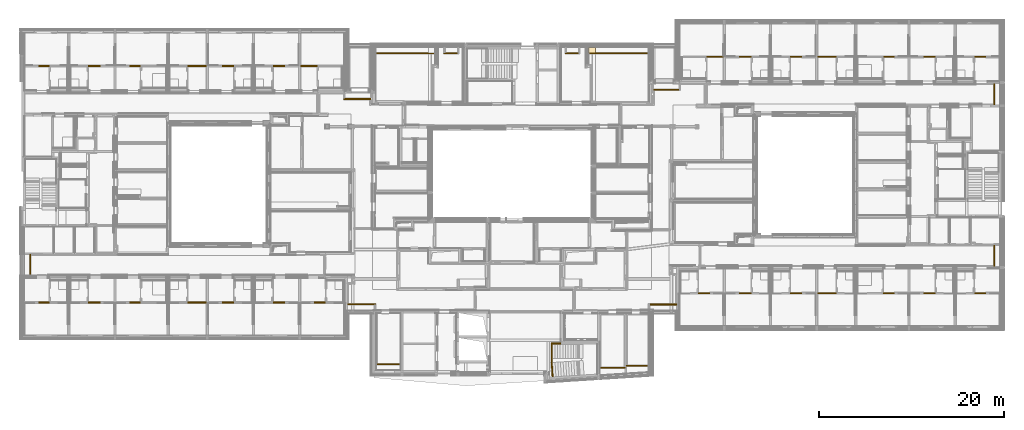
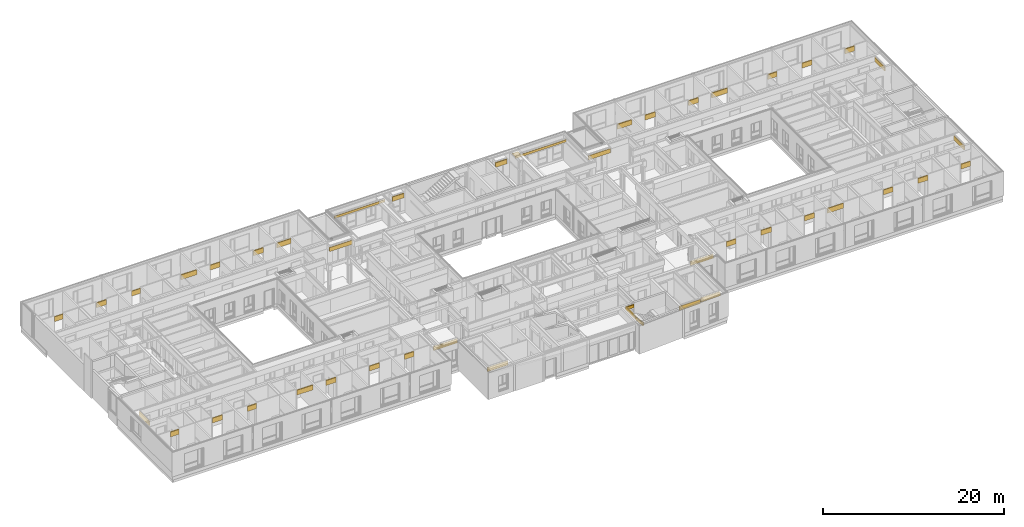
# One storey, part 191 of 207: 47 coverings.
"""IFC4 building model written with IfcOpenShell, lengths in metres."""

from ifc_helpers import new_model, entity, si_unit, converted_unit, derived_unit, frame, frame_2d, origin, place, context, subcontext, project, spatial, rectangle, extrude, faceted_brep, material, layer, layer_set, layer_usage, element, save


model = new_model("IFC4")

# Units and contexts
model_context = context("Model", 3, precision=1e-05, world=origin())
body_context = subcontext(model_context, "Body", "Model", "MODEL_VIEW")
ifc_project = project(units=[si_unit("LENGTHUNIT", "METRE"), si_unit("AREAUNIT", "SQUARE_METRE"), si_unit("VOLUMEUNIT", "CUBIC_METRE"), si_unit("MASSUNIT", "GRAM", prefix="KILO"), converted_unit("PLANEANGLEUNIT", "DEGREE", entity("IfcPlaneAngleMeasure", 0.0174532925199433), si_unit("PLANEANGLEUNIT", "RADIAN"), dimensions=[0, 0, 0, 0, 0, 0, 0]), derived_unit("THERMALTRANSMITTANCEUNIT", [(si_unit("POWERUNIT", "WATT"), 1), (si_unit("THERMODYNAMICTEMPERATUREUNIT", "KELVIN"), -1), (si_unit("LENGTHUNIT", "METRE"), -2)]), derived_unit("VOLUMETRICFLOWRATEUNIT", [(si_unit("LENGTHUNIT", "METRE"), 3), (converted_unit("TIMEUNIT", "hour", entity("IfcTimeMeasure", 3600.0), si_unit("TIMEUNIT", "SECOND"), dimensions=[0, 0, 1, 0, 0, 0, 0]), -1), (si_unit("LENGTHUNIT", "METRE"), -1)])], contexts=[model_context])

# Site, building, storey
site_placement = place(None, origin())
site = spatial("IfcSite", under=ifc_project, at=site_placement, Name="Psychiatrie Neubau Wunstorf", CompositionType="ELEMENT")
building_placement = place(site_placement, origin())
building = spatial("IfcBuilding", under=site, at=building_placement, Name="Neubau H2 Stationsgebäude", CompositionType="ELEMENT")
storey_placement = place(building_placement, frame((0.0, 0.0, -0.2)))
storey = spatial("IfcBuildingStorey", under=building, at=storey_placement, Name="H2 Ebene 0", CompositionType="ELEMENT", Elevation=-0.2)

# Coverings
covering_1_placement = place(storey_placement, frame((67.9, 1.13499969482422, 2.85)))
element("IfcCovering", 1, at=covering_1_placement, inside=storey, Name="a-sh Abschluss Abhangdecke", PredefinedType="CEILING", context=body_context, shape_type="Brep", body=[
    faceted_brep([(0.0, 0.125, 0.0), (2.93549999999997, 0.125, 0.0), (2.93549999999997, 0.125, 0.55), (0.0, 0.125, 0.55), (2.93549999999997, 0.0, 0.0), (2.93549999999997, 0.0, 0.55), (0.0, 0.0, 0.0), (0.0, 0.0, 0.55)], [[[0, 1, 2, 3]], [[1, 4, 5, 2]], [[4, 6, 7, 5]], [[6, 0, 3, 7]], [[7, 3, 2, 5]], [[0, 6, 4, 1]]], orient=[[False], [False], [False], [False], [False], [False]]),
])
covering_2_placement = place(storey_placement, frame((68.321, 24.3890036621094, 2.85)))
element("IfcCovering", 2, at=covering_2_placement, inside=storey, Name="a-sh Abschluss Abhangdecke", PredefinedType="CEILING", context=body_context, shape_type="Brep", body=[
    faceted_brep([(2.779, 0.0, 0.0), (0.0, 0.0, 0.0), (0.0, 0.0, 0.55), (2.779, 0.0, 0.55), (0.0, 0.125, 0.0), (0.0, 0.125, 0.55), (2.779, 0.125, 0.0), (2.779, 0.125, 0.55)], [[[0, 1, 2, 3]], [[1, 4, 5, 2]], [[4, 6, 7, 5]], [[6, 0, 3, 7]], [[7, 3, 2, 5]], [[0, 6, 4, 1]]], orient=[[False], [False], [False], [False], [False], [False]]),
])
covering_3_placement = place(storey_placement, frame((34.775, 23.39, 2.85)))
element("IfcCovering", 3, at=covering_3_placement, inside=storey, Name="a-sh Abschluss Abhangdecke", PredefinedType="CEILING", context=body_context, shape_type="Brep", body=[
    faceted_brep([(2.904, 0.0, 0.0), (0.0, 0.0, 0.0), (0.0, 0.0, 0.55), (2.904, 0.0, 0.55), (0.0, 0.125, 0.0), (0.0, 0.125, 0.55), (2.904, 0.125, 0.0), (2.904, 0.125, 0.55)], [[[0, 1, 2, 3]], [[1, 4, 5, 2]], [[4, 6, 7, 5]], [[6, 0, 3, 7]], [[7, 3, 2, 5]], [[0, 6, 4, 1]]], orient=[[False], [False], [False], [False], [False], [False]]),
])
covering_4_placement = place(storey_placement, frame((35.1645, 1.14999969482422, 2.85)))
element("IfcCovering", 4, at=covering_4_placement, inside=storey, Name="a-sh Abschluss Abhangdecke", PredefinedType="CEILING", context=body_context, shape_type="Brep", body=[
    faceted_brep([(0.0, 0.125, 0.0), (3.0605, 0.125, 0.0), (3.0605, 0.125, 0.55), (0.0, 0.125, 0.55), (3.0605, 0.0, 0.0), (3.0605, 0.0, 0.55), (0.0, 0.0, 0.0), (0.0, 0.0, 0.55)], [[[0, 1, 2, 3]], [[1, 4, 5, 2]], [[4, 6, 7, 5]], [[6, 0, 3, 7]], [[7, 3, 2, 5]], [[0, 6, 4, 1]]], orient=[[False], [False], [False], [False], [False], [False]]),
])
ifc_material_1 = material(Name="D1")
covering_5_placement = place(storey_placement, frame((105.165, 5.33250000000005, 2.85)))
element("IfcCovering", 5, at=covering_5_placement, inside=storey, material=ifc_material_1, Name="a-sh Abschluss Abhangdecke", PredefinedType="CEILING", context=body_context, shape_type="Brep", body=[
    faceted_brep([(0.0, 0.0, 0.0), (0.0, 2.29249999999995, 0.0), (0.0, 2.29249999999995, 0.55), (0.0, 0.0, 0.55), (0.125, 2.29249999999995, 0.0), (0.125, 2.29249999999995, 0.55), (0.125, 0.0, 0.0), (0.125, 0.0, 0.55)], [[[0, 1, 2, 3]], [[1, 4, 5, 2]], [[4, 6, 7, 5]], [[6, 0, 3, 7]], [[7, 3, 2, 5]], [[0, 6, 4, 1]]], orient=[[False], [False], [False], [False], [False], [False]]),
])
ifc_material_2 = material(Name="D1")
covering_6_placement = place(storey_placement, frame((105.175, 22.8359999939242, 2.85)))
element("IfcCovering", 6, at=covering_6_placement, inside=storey, material=ifc_material_2, Name="a-sh Abschluss Abhangdecke", PredefinedType="CEILING", context=body_context, shape_type="Brep", body=[
    faceted_brep([(0.0, 0.0, 0.0), (0.0, 2.28150000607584, 0.0), (0.0, 2.28150000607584, 0.55), (0.0, 0.0, 0.55), (0.125, 2.28150000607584, 0.0), (0.125, 2.28150000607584, 0.55), (0.125, 0.0, 0.0), (0.125, 0.0, 0.55)], [[[0, 1, 2, 3]], [[1, 4, 5, 2]], [[4, 6, 7, 5]], [[6, 0, 3, 7]], [[7, 3, 2, 5]], [[0, 6, 4, 1]]], orient=[[False], [False], [False], [False], [False], [False]]),
])
ifc_material_3 = material(Name="D1")
covering_7_placement = place(storey_placement, frame((0.77, 4.33074963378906, 2.85)))
element("IfcCovering", 7, at=covering_7_placement, inside=storey, material=ifc_material_3, Name="a-sh Abschluss Abhangdecke", PredefinedType="CEILING", context=body_context, shape_type="Brep", body=[
    faceted_brep([(0.125, 2.29425036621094, 0.0), (0.125, 0.0, 0.0), (0.125, 0.0, 0.55), (0.125, 2.29425036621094, 0.55), (0.0, 0.0, 0.0), (0.0, 0.0, 0.55), (0.0, 2.29425036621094, 0.0), (0.0, 2.29425036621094, 0.55)], [[[0, 1, 2, 3]], [[1, 4, 5, 2]], [[4, 6, 7, 5]], [[6, 0, 3, 7]], [[7, 3, 2, 5]], [[0, 6, 4, 1]]], orient=[[False], [False], [False], [False], [False], [False]]),
])
ifc_material_4 = material(Name="D1")
covering_8_placement = place(storey_placement, frame((57.2412710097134, -6.64576897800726, 3.15)))
element("IfcCovering", 8, at=covering_8_placement, inside=storey, material=ifc_material_4, Name="a-sh Abschluss Abhangdecke", PredefinedType="CEILING", context=body_context, shape_type="Brep", body=[
    faceted_brep([(0.0962708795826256, 0.0, 0.0), (0.0, 1.49911055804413, 0.0), (0.0, 1.49911055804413, 0.414), (0.0962708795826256, 0.0, 0.414), (0.125, 1.5031200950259, 0.0), (0.125, 1.5031200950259, 0.414), (0.221013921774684, 0.00801083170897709, 0.0), (0.221013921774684, 0.00801083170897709, 0.414)], [[[0, 1, 2, 3]], [[1, 4, 5, 2]], [[4, 6, 7, 5]], [[6, 0, 3, 7]], [[7, 3, 2, 5]], [[0, 6, 4, 1]]], orient=[[False], [False], [False], [False], [False], [False]]),
])
covering_9_placement = place(storey_placement, frame((57.2412710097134, -5.14665841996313, 3.15)))
element("IfcCovering", 9, at=covering_9_placement, inside=storey, Name="a-sh Abschluss Abhangdecke", PredefinedType="CEILING", context=body_context, shape_type="Brep", body=[
    faceted_brep([(0.0, 0.0, 0.0), (0.0, 2.18316710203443, 0.0), (0.0, 2.18316710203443, 0.414), (0.0, 0.0, 0.414), (0.125, 2.18316710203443, 0.0), (0.125, 2.18316710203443, 0.414), (0.125, 0.00400953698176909, 0.0), (0.125, 0.00400953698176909, 0.414)], [[[0, 1, 2, 3]], [[1, 4, 5, 2]], [[4, 6, 7, 5]], [[6, 0, 3, 7]], [[7, 3, 2, 5]], [[0, 6, 4, 1]]], orient=[[False], [False], [False], [False], [False], [False]]),
])
covering_10_placement = place(storey_placement, frame((57.3662710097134, -3.0884913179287, 3.15)))
element("IfcCovering", 10, at=covering_10_placement, inside=storey, Name="a-sh Abschluss Abhangdecke", PredefinedType="CEILING", context=body_context, shape_type="Brep", body=[
    faceted_brep([(0.0, 0.125, 0.0), (0.911728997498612, 0.125, 0.0), (0.911728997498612, 0.125, 0.414), (0.0, 0.125, 0.414), (0.911728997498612, 0.0, 0.0), (0.911728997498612, 0.0, 0.414), (0.0, 0.0, 0.0), (0.0, 0.0, 0.414)], [[[0, 1, 2, 3]], [[1, 4, 5, 2]], [[4, 6, 7, 5]], [[6, 0, 3, 7]], [[7, 3, 2, 5]], [[0, 6, 4, 1]]], orient=[[False], [False], [False], [False], [False], [False]]),
])
ifc_material_5 = material(Name="D1")
covering_11_placement = place(storey_placement, frame((103.1, 2.36050000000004, 2.8)))
element("IfcCovering", 11, at=covering_11_placement, inside=storey, material=ifc_material_5, Name="a-sh Abschluss Abhangdecke", PredefinedType="CEILING", context=body_context, shape_type="Brep", body=[
    faceted_brep([(0.0, 0.125, 0.0), (1.214, 0.125, 0.0), (1.214, 0.125, 0.65), (0.0, 0.125, 0.65), (1.214, 0.0, 0.0), (1.214, 0.0, 0.65), (0.0, 0.0, 0.0), (0.0, 0.0, 0.65)], [[[0, 1, 2, 3]], [[1, 4, 5, 2]], [[4, 6, 7, 5]], [[6, 0, 3, 7]], [[7, 3, 2, 5]], [[0, 6, 4, 1]]], orient=[[False], [False], [False], [False], [False], [False]]),
])
ifc_material_6 = material(Name="D1")
covering_12_placement = place(storey_placement, frame((97.6, 2.36050000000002, 2.8)))
element("IfcCovering", 12, at=covering_12_placement, inside=storey, material=ifc_material_6, Name="a-sh Abschluss Abhangdecke", PredefinedType="CEILING", context=body_context, shape_type="Brep", body=[
    faceted_brep([(0.0, 0.125, 0.0), (1.25, 0.125, 0.0), (1.25, 0.125, 0.65), (0.0, 0.125, 0.65), (1.25, 0.0, 0.0), (1.25, 0.0, 0.65), (0.0, 0.0, 0.0), (0.0, 0.0, 0.65)], [[[0, 1, 2, 3]], [[1, 4, 5, 2]], [[4, 6, 7, 5]], [[6, 0, 3, 7]], [[7, 3, 2, 5]], [[0, 6, 4, 1]]], orient=[[False], [False], [False], [False], [False], [False]]),
])
covering_13_placement = place(storey_placement, frame((93.2250000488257, 2.36050000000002, 2.8)))
element("IfcCovering", 13, at=covering_13_placement, inside=storey, Name="a-sh Abschluss Abhangdecke", PredefinedType="CEILING", context=body_context, shape_type="Brep", body=[
    faceted_brep([(0.0, 0.125, 0.0), (1.17499995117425, 0.125, 0.0), (1.17499995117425, 0.125, 0.65), (0.0, 0.125, 0.65), (1.17499995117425, 0.0, 0.0), (1.17499995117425, 0.0, 0.65), (0.0, 0.0, 0.0), (0.0, 0.0, 0.65)], [[[0, 1, 2, 3]], [[1, 4, 5, 2]], [[4, 6, 7, 5]], [[6, 0, 3, 7]], [[7, 3, 2, 5]], [[0, 6, 4, 1]]], orient=[[False], [False], [False], [False], [False], [False]]),
])
covering_14_placement = place(storey_placement, frame((86.1000000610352, 2.36050000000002, 2.8)))
element("IfcCovering", 14, at=covering_14_placement, inside=storey, Name="a-sh Abschluss Abhangdecke", PredefinedType="CEILING", context=body_context, shape_type="Brep", body=[
    faceted_brep([(0.0, 0.125, 0.0), (1.99999998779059, 0.125, 0.0), (1.99999998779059, 0.125, 0.65), (0.0, 0.125, 0.65), (1.99999998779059, 0.0, 0.0), (1.99999998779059, 0.0, 0.65), (0.0, 0.0, 0.0), (0.0, 0.0, 0.65)], [[[0, 1, 2, 3]], [[1, 4, 5, 2]], [[4, 6, 7, 5]], [[6, 0, 3, 7]], [[7, 3, 2, 5]], [[0, 6, 4, 1]]], orient=[[False], [False], [False], [False], [False], [False]]),
])
covering_15_placement = place(storey_placement, frame((83.1499999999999, 2.36050000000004, 2.8)))
element("IfcCovering", 15, at=covering_15_placement, inside=storey, Name="a-sh Abschluss Abhangdecke", PredefinedType="CEILING", context=body_context, shape_type="Brep", body=[
    faceted_brep([(0.0, 0.125, 0.0), (1.25000004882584, 0.125, 0.0), (1.25000004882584, 0.125, 0.65), (0.0, 0.125, 0.65), (1.25000004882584, 0.0, 0.0), (1.25000004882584, 0.0, 0.65), (0.0, 0.0, 0.0), (0.0, 0.0, 0.65)], [[[0, 1, 2, 3]], [[1, 4, 5, 2]], [[4, 6, 7, 5]], [[6, 0, 3, 7]], [[7, 3, 2, 5]], [[0, 6, 4, 1]]], orient=[[False], [False], [False], [False], [False], [False]]),
])
covering_16_placement = place(storey_placement, frame((77.6, 2.36050000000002, 2.8)))
element("IfcCovering", 16, at=covering_16_placement, inside=storey, Name="a-sh Abschluss Abhangdecke", PredefinedType="CEILING", context=body_context, shape_type="Brep", body=[
    faceted_brep([(0.0, 0.125, 0.0), (1.3, 0.125, 0.0), (1.3, 0.125, 0.65), (0.0, 0.125, 0.65), (1.3, 0.0, 0.0), (1.3, 0.0, 0.65), (0.0, 0.0, 0.0), (0.0, 0.0, 0.65)], [[[0, 1, 2, 3]], [[1, 4, 5, 2]], [[4, 6, 7, 5]], [[6, 0, 3, 7]], [[7, 3, 2, 5]], [[0, 6, 4, 1]]], orient=[[False], [False], [False], [False], [False], [False]]),
])
covering_17_placement = place(storey_placement, frame((73.1875, 2.36050000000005, 2.8)))
element("IfcCovering", 17, at=covering_17_placement, inside=storey, Name="a-sh Abschluss Abhangdecke", PredefinedType="CEILING", context=body_context, shape_type="Brep", body=[
    faceted_brep([(0.0, 0.125, 0.0), (1.21249999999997, 0.125, 0.0), (1.21249999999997, 0.125, 0.65), (0.0, 0.125, 0.65), (1.21249999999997, 0.0, 0.0), (1.21249999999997, 0.0, 0.65), (0.0, 0.0, 0.0), (0.0, 0.0, 0.65)], [[[0, 1, 2, 3]], [[1, 4, 5, 2]], [[4, 6, 7, 5]], [[6, 0, 3, 7]], [[7, 3, 2, 5]], [[0, 6, 4, 1]]], orient=[[False], [False], [False], [False], [False], [False]]),
])
covering_18_placement = place(storey_placement, frame((31.6, 1.35874963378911, 2.8)))
element("IfcCovering", 18, at=covering_18_placement, inside=storey, Name="a-sh Abschluss Abhangdecke", PredefinedType="CEILING", context=body_context, shape_type="Brep", body=[
    faceted_brep([(0.0, 0.125, 0.0), (1.1925, 0.125, 0.0), (1.1925, 0.125, 0.65), (0.0, 0.125, 0.65), (1.1925, 0.0, 0.0), (1.1925, 0.0, 0.65), (0.0, 0.0, 0.0), (0.0, 0.0, 0.65)], [[[0, 1, 2, 3]], [[1, 4, 5, 2]], [[4, 6, 7, 5]], [[6, 0, 3, 7]], [[7, 3, 2, 5]], [[0, 6, 4, 1]]], orient=[[False], [False], [False], [False], [False], [False]]),
])
covering_19_placement = place(storey_placement, frame((27.125, 1.35874963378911, 2.8)))
element("IfcCovering", 19, at=covering_19_placement, inside=storey, Name="a-sh Abschluss Abhangdecke", PredefinedType="CEILING", context=body_context, shape_type="Brep", body=[
    faceted_brep([(0.0, 0.125, 0.0), (1.27499999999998, 0.125, 0.0), (1.27499999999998, 0.125, 0.65), (0.0, 0.125, 0.65), (1.27499999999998, 0.0, 0.0), (1.27499999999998, 0.0, 0.65), (0.0, 0.0, 0.0), (0.0, 0.0, 0.65)], [[[0, 1, 2, 3]], [[1, 4, 5, 2]], [[4, 6, 7, 5]], [[6, 0, 3, 7]], [[7, 3, 2, 5]], [[0, 6, 4, 1]]], orient=[[False], [False], [False], [False], [False], [False]]),
])
covering_20_placement = place(storey_placement, frame((21.6, 1.35874963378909, 2.8)))
element("IfcCovering", 20, at=covering_20_placement, inside=storey, Name="a-sh Abschluss Abhangdecke", PredefinedType="CEILING", context=body_context, shape_type="Brep", body=[
    faceted_brep([(0.0, 0.125, 0.0), (1.275, 0.125, 0.0), (1.275, 0.125, 0.65), (0.0, 0.125, 0.65), (1.275, 0.0, 0.0), (1.275, 0.0, 0.65), (0.0, 0.0, 0.0), (0.0, 0.0, 0.65)], [[[0, 1, 2, 3]], [[1, 4, 5, 2]], [[4, 6, 7, 5]], [[6, 0, 3, 7]], [[7, 3, 2, 5]], [[0, 6, 4, 1]]], orient=[[False], [False], [False], [False], [False], [False]]),
])
covering_21_placement = place(storey_placement, frame((17.875, 1.35874963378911, 2.8)))
element("IfcCovering", 21, at=covering_21_placement, inside=storey, Name="a-sh Abschluss Abhangdecke", PredefinedType="CEILING", context=body_context, shape_type="Brep", body=[
    faceted_brep([(0.0, 0.125, 0.0), (2.025, 0.125, 0.0), (2.025, 0.125, 0.65), (0.0, 0.125, 0.65), (2.025, 0.0, 0.0), (2.025, 0.0, 0.65), (0.0, 0.0, 0.0), (0.0, 0.0, 0.65)], [[[0, 1, 2, 3]], [[1, 4, 5, 2]], [[4, 6, 7, 5]], [[6, 0, 3, 7]], [[7, 3, 2, 5]], [[0, 6, 4, 1]]], orient=[[False], [False], [False], [False], [False], [False]]),
])
covering_22_placement = place(storey_placement, frame((11.6, 1.35874963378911, 2.8)))
element("IfcCovering", 22, at=covering_22_placement, inside=storey, Name="a-sh Abschluss Abhangdecke", PredefinedType="CEILING", context=body_context, shape_type="Brep", body=[
    faceted_brep([(0.0, 0.125, 0.0), (1.14999999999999, 0.125, 0.0), (1.14999999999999, 0.125, 0.65), (0.0, 0.125, 0.65), (1.14999999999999, 0.0, 0.0), (1.14999999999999, 0.0, 0.65), (0.0, 0.0, 0.0), (0.0, 0.0, 0.65)], [[[0, 1, 2, 3]], [[1, 4, 5, 2]], [[4, 6, 7, 5]], [[6, 0, 3, 7]], [[7, 3, 2, 5]], [[0, 6, 4, 1]]], orient=[[False], [False], [False], [False], [False], [False]]),
])
covering_23_placement = place(storey_placement, frame((7.125, 1.35874963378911, 2.8)))
element("IfcCovering", 23, at=covering_23_placement, inside=storey, Name="a-sh Abschluss Abhangdecke", PredefinedType="CEILING", context=body_context, shape_type="Brep", body=[
    faceted_brep([(0.0, 0.125, 0.0), (1.27499999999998, 0.125, 0.0), (1.27499999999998, 0.125, 0.65), (0.0, 0.125, 0.65), (1.27499999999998, 0.0, 0.0), (1.27499999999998, 0.0, 0.65), (0.0, 0.0, 0.0), (0.0, 0.0, 0.65)], [[[0, 1, 2, 3]], [[1, 4, 5, 2]], [[4, 6, 7, 5]], [[6, 0, 3, 7]], [[7, 3, 2, 5]], [[0, 6, 4, 1]]], orient=[[False], [False], [False], [False], [False], [False]]),
])
covering_24_placement = place(storey_placement, frame((1.744, 1.3587496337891, 2.8)))
element("IfcCovering", 24, at=covering_24_placement, inside=storey, Name="a-sh Abschluss Abhangdecke", PredefinedType="CEILING", context=body_context, shape_type="Brep", body=[
    faceted_brep([(0.0, 0.125, 0.0), (1.131, 0.125, 0.0), (1.131, 0.125, 0.65), (0.0, 0.125, 0.65), (1.131, 0.0, 0.0), (1.131, 0.0, 0.65), (0.0, 0.0, 0.0), (0.0, 0.0, 0.65)], [[[0, 1, 2, 3]], [[1, 4, 5, 2]], [[4, 6, 7, 5]], [[6, 0, 3, 7]], [[7, 3, 2, 5]], [[0, 6, 4, 1]]], orient=[[False], [False], [False], [False], [False], [False]]),
])
covering_25_placement = place(storey_placement, frame((1.744, 26.9645, 2.8)))
element("IfcCovering", 25, at=covering_25_placement, inside=storey, Name="a-sh Abschluss Abhangdecke", PredefinedType="CEILING", context=body_context, shape_type="Brep", body=[
    faceted_brep([(1.13100000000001, 0.0, 0.0), (0.0, 0.0, 0.0), (0.0, 0.0, 0.65), (1.13100000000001, 0.0, 0.65), (0.0, 0.125, 0.0), (0.0, 0.125, 0.65), (1.13100000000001, 0.125, 0.0), (1.13100000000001, 0.125, 0.65)], [[[0, 1, 2, 3]], [[1, 4, 5, 2]], [[4, 6, 7, 5]], [[6, 0, 3, 7]], [[7, 3, 2, 5]], [[0, 6, 4, 1]]], orient=[[False], [False], [False], [False], [False], [False]]),
])
covering_26_placement = place(storey_placement, frame((7.12500000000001, 26.9645, 2.8)))
element("IfcCovering", 26, at=covering_26_placement, inside=storey, Name="a-sh Abschluss Abhangdecke", PredefinedType="CEILING", context=body_context, shape_type="Brep", body=[
    faceted_brep([(1.27499999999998, 0.0, 0.0), (0.0, 0.0, 0.0), (0.0, 0.0, 0.65), (1.27499999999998, 0.0, 0.65), (0.0, 0.125, 0.0), (0.0, 0.125, 0.65), (1.27499999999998, 0.125, 0.0), (1.27499999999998, 0.125, 0.65)], [[[0, 1, 2, 3]], [[1, 4, 5, 2]], [[4, 6, 7, 5]], [[6, 0, 3, 7]], [[7, 3, 2, 5]], [[0, 6, 4, 1]]], orient=[[False], [False], [False], [False], [False], [False]]),
])
covering_27_placement = place(storey_placement, frame((11.6, 26.9645, 2.8)))
element("IfcCovering", 27, at=covering_27_placement, inside=storey, Name="a-sh Abschluss Abhangdecke", PredefinedType="CEILING", context=body_context, shape_type="Brep", body=[
    faceted_brep([(1.14999999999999, 0.0, 0.0), (0.0, 0.0, 0.0), (0.0, 0.0, 0.65), (1.14999999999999, 0.0, 0.65), (0.0, 0.125, 0.0), (0.0, 0.125, 0.65), (1.14999999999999, 0.125, 0.0), (1.14999999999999, 0.125, 0.65)], [[[0, 1, 2, 3]], [[1, 4, 5, 2]], [[4, 6, 7, 5]], [[6, 0, 3, 7]], [[7, 3, 2, 5]], [[0, 6, 4, 1]]], orient=[[False], [False], [False], [False], [False], [False]]),
])
covering_28_placement = place(storey_placement, frame((17.875, 26.9645, 2.8)))
element("IfcCovering", 28, at=covering_28_placement, inside=storey, Name="a-sh Abschluss Abhangdecke", PredefinedType="CEILING", context=body_context, shape_type="Brep", body=[
    faceted_brep([(2.025, 0.0, 0.0), (0.0, 0.0, 0.0), (0.0, 0.0, 0.65), (2.025, 0.0, 0.65), (0.0, 0.125, 0.0), (0.0, 0.125, 0.65), (2.025, 0.125, 0.0), (2.025, 0.125, 0.65)], [[[0, 1, 2, 3]], [[1, 4, 5, 2]], [[4, 6, 7, 5]], [[6, 0, 3, 7]], [[7, 3, 2, 5]], [[0, 6, 4, 1]]], orient=[[False], [False], [False], [False], [False], [False]]),
])
covering_29_placement = place(storey_placement, frame((21.6, 26.9645, 2.8)))
element("IfcCovering", 29, at=covering_29_placement, inside=storey, Name="a-sh Abschluss Abhangdecke", PredefinedType="CEILING", context=body_context, shape_type="Brep", body=[
    faceted_brep([(1.275, 0.0, 0.0), (0.0, 0.0, 0.0), (0.0, 0.0, 0.65), (1.275, 0.0, 0.65), (0.0, 0.125, 0.0), (0.0, 0.125, 0.65), (1.275, 0.125, 0.0), (1.275, 0.125, 0.65)], [[[0, 1, 2, 3]], [[1, 4, 5, 2]], [[4, 6, 7, 5]], [[6, 0, 3, 7]], [[7, 3, 2, 5]], [[0, 6, 4, 1]]], orient=[[False], [False], [False], [False], [False], [False]]),
])
covering_30_placement = place(storey_placement, frame((27.125, 26.9645, 2.8)))
element("IfcCovering", 30, at=covering_30_placement, inside=storey, Name="a-sh Abschluss Abhangdecke", PredefinedType="CEILING", context=body_context, shape_type="Brep", body=[
    faceted_brep([(1.27499999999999, 0.0, 0.0), (0.0, 0.0, 0.0), (0.0, 0.0, 0.65), (1.27499999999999, 0.0, 0.65), (0.0, 0.125, 0.0), (0.0, 0.125, 0.65), (1.27499999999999, 0.125, 0.0), (1.27499999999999, 0.125, 0.65)], [[[0, 1, 2, 3]], [[1, 4, 5, 2]], [[4, 6, 7, 5]], [[6, 0, 3, 7]], [[7, 3, 2, 5]], [[0, 6, 4, 1]]], orient=[[False], [False], [False], [False], [False], [False]]),
])
covering_31_placement = place(storey_placement, frame((30.1, 26.9645, 2.8)))
element("IfcCovering", 31, at=covering_31_placement, inside=storey, Name="a-sh Abschluss Abhangdecke", PredefinedType="CEILING", context=body_context, shape_type="Brep", body=[
    faceted_brep([(1.79800000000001, 0.0, 0.0), (0.0, 0.0, 0.0), (0.0, 0.0, 0.65), (1.79800000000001, 0.0, 0.65), (0.0, 0.125, 0.0), (0.0, 0.125, 0.65), (1.79800000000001, 0.125, 0.0), (1.79800000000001, 0.125, 0.65)], [[[0, 1, 2, 3]], [[1, 4, 5, 2]], [[4, 6, 7, 5]], [[6, 0, 3, 7]], [[7, 3, 2, 5]], [[0, 6, 4, 1]]], orient=[[False], [False], [False], [False], [False], [False]]),
])
covering_32_placement = place(storey_placement, frame((74.1, 27.9575, 2.8)))
element("IfcCovering", 32, at=covering_32_placement, inside=storey, Name="a-sh Abschluss Abhangdecke", PredefinedType="CEILING", context=body_context, shape_type="Brep", body=[
    faceted_brep([(1.8, 0.0, 0.0), (0.0, 0.0, 0.0), (0.0, 0.0, 0.65), (1.8, 0.0, 0.65), (0.0, 0.125, 0.0), (0.0, 0.125, 0.65), (1.8, 0.125, 0.0), (1.8, 0.125, 0.65)], [[[0, 1, 2, 3]], [[1, 4, 5, 2]], [[4, 6, 7, 5]], [[6, 0, 3, 7]], [[7, 3, 2, 5]], [[0, 6, 4, 1]]], orient=[[False], [False], [False], [False], [False], [False]]),
])
covering_33_placement = place(storey_placement, frame((77.6, 27.9645, 2.8)))
element("IfcCovering", 33, at=covering_33_placement, inside=storey, Name="a-sh Abschluss Abhangdecke", PredefinedType="CEILING", context=body_context, shape_type="Brep", body=[
    faceted_brep([(1.3, 0.0, 0.0), (0.0, 0.0, 0.0), (0.0, 0.0, 0.65), (1.3, 0.0, 0.65), (0.0, 0.125, 0.0), (0.0, 0.125, 0.65), (1.3, 0.125, 0.0), (1.3, 0.125, 0.65)], [[[0, 1, 2, 3]], [[1, 4, 5, 2]], [[4, 6, 7, 5]], [[6, 0, 3, 7]], [[7, 3, 2, 5]], [[0, 6, 4, 1]]], orient=[[False], [False], [False], [False], [False], [False]]),
])
covering_34_placement = place(storey_placement, frame((83.15, 27.9645, 2.8)))
element("IfcCovering", 34, at=covering_34_placement, inside=storey, Name="a-sh Abschluss Abhangdecke", PredefinedType="CEILING", context=body_context, shape_type="Brep", body=[
    faceted_brep([(1.24999999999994, 0.0, 0.0), (0.0, 0.0, 0.0), (0.0, 0.0, 0.65), (1.24999999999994, 0.0, 0.65), (0.0, 0.125, 0.0), (0.0, 0.125, 0.65), (1.24999999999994, 0.125, 0.0), (1.24999999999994, 0.125, 0.65)], [[[0, 1, 2, 3]], [[1, 4, 5, 2]], [[4, 6, 7, 5]], [[6, 0, 3, 7]], [[7, 3, 2, 5]], [[0, 6, 4, 1]]], orient=[[False], [False], [False], [False], [False], [False]]),
])
covering_35_placement = place(storey_placement, frame((86.1, 27.9645, 2.8)))
element("IfcCovering", 35, at=covering_35_placement, inside=storey, Name="a-sh Abschluss Abhangdecke", PredefinedType="CEILING", context=body_context, shape_type="Brep", body=[
    faceted_brep([(2.025, 0.0, 0.0), (0.0, 0.0, 0.0), (0.0, 0.0, 0.65), (2.025, 0.0, 0.65), (0.0, 0.125, 0.0), (0.0, 0.125, 0.65), (2.025, 0.125, 0.0), (2.025, 0.125, 0.65)], [[[0, 1, 2, 3]], [[1, 4, 5, 2]], [[4, 6, 7, 5]], [[6, 0, 3, 7]], [[7, 3, 2, 5]], [[0, 6, 4, 1]]], orient=[[False], [False], [False], [False], [False], [False]]),
])
covering_36_placement = place(storey_placement, frame((93.25, 27.9645, 2.8)))
element("IfcCovering", 36, at=covering_36_placement, inside=storey, Name="a-sh Abschluss Abhangdecke", PredefinedType="CEILING", context=body_context, shape_type="Brep", body=[
    faceted_brep([(1.14999999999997, 0.0, 0.0), (0.0, 0.0, 0.0), (0.0, 0.0, 0.65), (1.14999999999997, 0.0, 0.65), (0.0, 0.125, 0.0), (0.0, 0.125, 0.65), (1.14999999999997, 0.125, 0.0), (1.14999999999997, 0.125, 0.65)], [[[0, 1, 2, 3]], [[1, 4, 5, 2]], [[4, 6, 7, 5]], [[6, 0, 3, 7]], [[7, 3, 2, 5]], [[0, 6, 4, 1]]], orient=[[False], [False], [False], [False], [False], [False]]),
])
covering_37_placement = place(storey_placement, frame((97.6, 27.9645, 2.8)))
element("IfcCovering", 37, at=covering_37_placement, inside=storey, Name="a-sh Abschluss Abhangdecke", PredefinedType="CEILING", context=body_context, shape_type="Brep", body=[
    faceted_brep([(1.25000000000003, 0.0, 0.0), (0.0, 0.0, 0.0), (0.0, 0.0, 0.65), (1.25000000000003, 0.0, 0.65), (0.0, 0.125, 0.0), (0.0, 0.125, 0.65), (1.25000000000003, 0.125, 0.0), (1.25000000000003, 0.125, 0.65)], [[[0, 1, 2, 3]], [[1, 4, 5, 2]], [[4, 6, 7, 5]], [[6, 0, 3, 7]], [[7, 3, 2, 5]], [[0, 6, 4, 1]]], orient=[[False], [False], [False], [False], [False], [False]]),
])
covering_38_placement = place(storey_placement, frame((103.1, 27.9645, 2.8)))
element("IfcCovering", 38, at=covering_38_placement, inside=storey, Name="a-sh Abschluss Abhangdecke", PredefinedType="CEILING", context=body_context, shape_type="Brep", body=[
    faceted_brep([(1.214, 0.0, 0.0), (0.0, 0.0, 0.0), (0.0, 0.0, 0.65), (1.214, 0.0, 0.65), (0.0, 0.125, 0.0), (0.0, 0.125, 0.65), (1.214, 0.125, 0.0), (1.214, 0.125, 0.65)], [[[0, 1, 2, 3]], [[1, 4, 5, 2]], [[4, 6, 7, 5]], [[6, 0, 3, 7]], [[7, 3, 2, 5]], [[0, 6, 4, 1]]], orient=[[False], [False], [False], [False], [False], [False]]),
])
covering_39_placement = place(storey_placement, frame((65.4, -5.514000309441, 2.85)))
element("IfcCovering", 39, at=covering_39_placement, inside=storey, Name="a-sh Abschluss Abhangdecke", PredefinedType="CEILING", context=body_context, shape_type="Brep", body=[
    faceted_brep([(0.0, 0.125, 0.0), (2.45250000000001, 0.125, 0.0), (2.45250000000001, 0.125, 0.55), (0.0, 0.125, 0.55), (2.45250000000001, 0.0, 0.0), (2.45250000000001, 0.0, 0.55), (0.0, 0.0, 0.0), (0.0, 0.0, 0.55)], [[[0, 1, 2, 3]], [[1, 4, 5, 2]], [[4, 6, 7, 5]], [[6, 0, 3, 7]], [[7, 3, 2, 5]], [[0, 6, 4, 1]]], orient=[[False], [False], [False], [False], [False], [False]]),
])
ifc_material_7 = material(Name="D1")
covering_40_placement = place(storey_placement, frame((62.5297936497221, -5.70724550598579, 2.85)))
element("IfcCovering", 40, at=covering_40_placement, inside=storey, material=ifc_material_7, Name="a-sh Abschluss Abhangdecke", PredefinedType="CEILING", context=body_context, shape_type="Brep", body=[
    faceted_brep([(0.0, 0.125, 0.0), (2.72020635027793, 0.125, 0.0), (2.72020635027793, 0.125, 0.55), (0.0, 0.125, 0.55), (2.72020635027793, 0.0, 0.0), (2.72020635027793, 0.0, 0.55), (0.0, 0.0, 0.0), (0.0, 0.0, 0.55)], [[[0, 1, 2, 3]], [[1, 4, 5, 2]], [[4, 6, 7, 5]], [[6, 0, 3, 7]], [[7, 3, 2, 5]], [[0, 6, 4, 1]]], orient=[[False], [False], [False], [False], [False], [False]]),
])
ifc_material_8 = material(Name="D1")
covering_41_placement = place(storey_placement, frame((38.304, -5.345000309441, 2.85)))
element("IfcCovering", 41, at=covering_41_placement, inside=storey, material=ifc_material_8, Name="a-sh Abschluss Abhangdecke", PredefinedType="CEILING", context=body_context, shape_type="Brep", body=[
    faceted_brep([(0.0, 0.125, 0.0), (2.62099999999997, 0.125, 0.0), (2.62099999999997, 0.125, 0.55), (0.0, 0.125, 0.55), (2.62099999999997, 0.0, 0.0), (2.62099999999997, 0.0, 0.55), (0.0, 0.0, 0.0), (0.0, 0.0, 0.55)], [[[0, 1, 2, 3]], [[1, 4, 5, 2]], [[4, 6, 7, 5]], [[6, 0, 3, 7]], [[7, 3, 2, 5]], [[0, 6, 4, 1]]], orient=[[False], [False], [False], [False], [False], [False]]),
])
ifc_material_9 = material(Name="D1")
covering_42_placement = place(storey_placement, frame((38.244, 28.3389996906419, 3.1)))
element("IfcCovering", 42, at=covering_42_placement, inside=storey, material=ifc_material_9, Name="a-sh Abschluss Abhangdecke", PredefinedType="CEILING", context=body_context, shape_type="Brep", body=[
    faceted_brep([(6.456, 0.0, 0.0), (0.0, 0.0, 0.0), (0.0, 0.0, 0.3), (6.456, 0.0, 0.3), (0.0, 0.125, 0.0), (0.0, 0.125, 0.3), (6.456, 0.125, 0.0), (6.456, 0.125, 0.3)], [[[0, 1, 2, 3]], [[1, 4, 5, 2]], [[4, 6, 7, 5]], [[6, 0, 3, 7]], [[7, 3, 2, 5]], [[0, 6, 4, 1]]], orient=[[False], [False], [False], [False], [False], [False]]),
])
covering_43_placement = place(storey_placement, frame((45.6249998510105, 28.3389996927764, 2.8)))
element("IfcCovering", 43, at=covering_43_placement, inside=storey, Name="a-sh Abschluss Abhangdecke", PredefinedType="CEILING", context=body_context, shape_type="Brep", body=[
    faceted_brep([(1.47799990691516, 0.0, 0.0), (0.0, 0.0, 0.0), (0.0, 0.0, 0.6), (1.47799990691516, 0.0, 0.6), (0.0, 0.125, 0.0), (0.0, 0.125, 0.6), (1.47799990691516, 0.125, 0.0), (1.47799990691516, 0.125, 0.6)], [[[0, 1, 2, 3]], [[1, 4, 5, 2]], [[4, 6, 7, 5]], [[6, 0, 3, 7]], [[7, 3, 2, 5]], [[0, 6, 4, 1]]], orient=[[False], [False], [False], [False], [False], [False]]),
])
covering_44_placement = place(storey_placement, frame((58.7610000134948, 28.3389996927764, 2.8)))
element("IfcCovering", 44, at=covering_44_placement, inside=storey, Name="a-sh Abschluss Abhangdecke", PredefinedType="CEILING", context=body_context, shape_type="Brep", body=[
    faceted_brep([(1.47799997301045, 0.0, 0.0), (0.0, 0.0, 0.0), (0.0, 0.0, 0.6), (1.47799997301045, 0.0, 0.6), (0.0, 0.125, 0.0), (0.0, 0.125, 0.6), (1.47799997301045, 0.125, 0.0), (1.47799997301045, 0.125, 0.6)], [[[0, 1, 2, 3]], [[1, 4, 5, 2]], [[4, 6, 7, 5]], [[6, 0, 3, 7]], [[7, 3, 2, 5]], [[0, 6, 4, 1]]], orient=[[False], [False], [False], [False], [False], [False]]),
])
ifc_material_10 = material(Name="D1")
covering_45_placement = place(storey_placement, frame((61.289, 28.3389996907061, 3.1)))
element("IfcCovering", 45, at=covering_45_placement, inside=storey, material=ifc_material_10, Name="a-sh Abschluss Abhangdecke", PredefinedType="CEILING", context=body_context, shape_type="Brep", body=[
    faceted_brep([(6.525, 0.0, 0.0), (0.0, 0.0, 0.0), (0.0, 0.0, 0.3), (6.525, 0.0, 0.3), (0.0, 0.125, 0.0), (0.0, 0.125, 0.3), (6.525, 0.125, 0.0), (6.525, 0.125, 0.3)], [[[0, 1, 2, 3]], [[1, 4, 5, 2]], [[4, 6, 7, 5]], [[6, 0, 3, 7]], [[7, 3, 2, 5]], [[0, 6, 4, 1]]], orient=[[False], [False], [False], [False], [False], [False]]),
])

# Space
space_placement = place(storey_placement, frame((61.289, 23.0959999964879, 0.0)))
space = spatial("IfcSpace", under=storey, at=space_placement, Name="WUN-H2-E00-055", CompositionType="ELEMENT")

# Coverings
ifc_material_11 = material(Name="A1")
ifc_layer_1 = layer(ifc_material_11, 0.1)
ifc_layer_set_1 = layer_set([ifc_layer_1])
ifc_layer_usage_1 = layer_usage(ifc_layer_set_1, "AXIS3", "POSITIVE", 0.0)
covering_46_placement = place(space_placement, frame((0.0, 5.3679996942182, 3.4)))
element("IfcCovering", 46, at=covering_46_placement, inside=space, material=ifc_layer_usage_1, Name="Gipsfaserplatten 2-lagig (BSK)", PredefinedType="CEILING", context=body_context, shape_type="SweptSolid", body=[
    extrude(rectangle(XDim=0.599999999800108, YDim=0.773500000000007, at=frame_2d((0.386750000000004, -0.299999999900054), x_axis=(0.0, -1.0))), frame((0.0, 0.0, 0.0), z_axis=(0.0, 0.0, -1.0), x_axis=(1.0, 0.0, 0.0)), (0.0, 0.0, 1.0), 0.1),
])
ifc_material_12 = material(Name="D1")
ifc_layer_2 = layer(ifc_material_12, 0.001)
ifc_layer_set_2 = layer_set([ifc_layer_2])
ifc_layer_usage_2 = layer_usage(ifc_layer_set_2, "AXIS3", "POSITIVE", 0.0)
covering_47_placement = place(space_placement, frame((0.0, 5.3679996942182, 3.3)))
element("IfcCovering", 47, at=covering_47_placement, inside=space, material=ifc_layer_usage_2, Name="Gipsfaserplatten 2-lagig (BSK)", PredefinedType="CEILING", context=body_context, shape_type="SweptSolid", body=[
    extrude(rectangle(XDim=0.599999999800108, YDim=0.773500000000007, at=frame_2d((0.386750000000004, -0.299999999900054), x_axis=(0.0, -1.0))), frame((0.0, 0.0, 0.0), z_axis=(0.0, 0.0, -1.0), x_axis=(1.0, 0.0, 0.0)), (0.0, 0.0, 1.0), 0.001),
])

save(model, "model.ifc")
